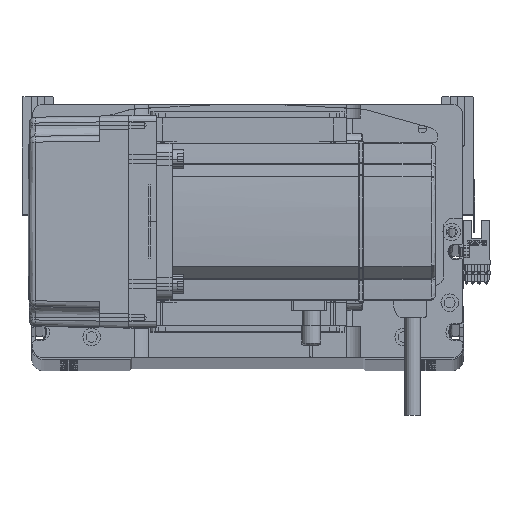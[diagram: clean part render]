
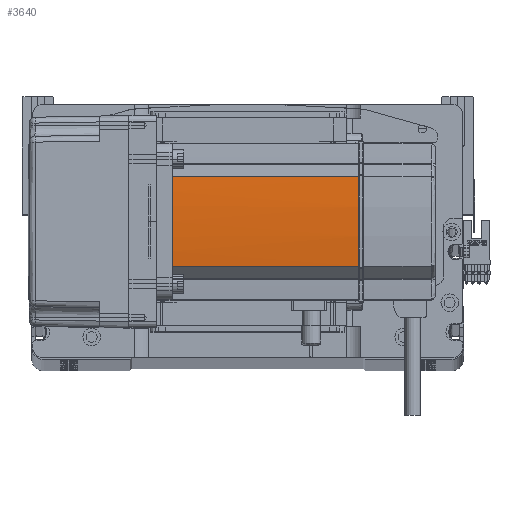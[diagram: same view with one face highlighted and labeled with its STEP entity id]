
A CAD part, top view. The second image highlights one B-rep face of the part: STEP entity #3640.
In plain terms, the highlighted cylindrical face has radius 270 mm (diameter 540 mm), a partial arc.
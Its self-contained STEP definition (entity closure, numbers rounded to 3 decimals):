
#2299 = VERTEX_POINT ( 'NONE', #8444 ) ;
#3640 = ADVANCED_FACE ( 'NONE', ( #51127 ), #11519, .T. ) ;
#3742 = CARTESIAN_POINT ( 'NONE',  ( 40., -0.042, 134. ) ) ;
#4507 = AXIS2_PLACEMENT_3D ( 'NONE', #5125, #37307, #41872 ) ;
#5125 = CARTESIAN_POINT ( 'NONE',  ( -230., 0., 39. ) ) ;
#8444 = CARTESIAN_POINT ( 'NONE',  ( 40., 0.127, 134. ) ) ;
#10355 = ORIENTED_EDGE ( 'NONE', *, *, #29696, .T. ) ;
#10881 = VECTOR ( 'NONE', #37419, 1000. ) ;
#11519 = CYLINDRICAL_SURFACE ( 'NONE', #42718, 270. ) ;
#12491 = DIRECTION ( 'NONE',  ( 0., 0., -1. ) ) ;
#12739 = CARTESIAN_POINT ( 'NONE',  ( 40., 0.127, 134. ) ) ;
#13144 = EDGE_CURVE ( 'NONE', #13616, #47516, #22749, .T. ) ;
#13616 = VERTEX_POINT ( 'NONE', #41677 ) ;
#16229 = ORIENTED_EDGE ( 'NONE', *, *, #50838, .F. ) ;
#16287 = CARTESIAN_POINT ( 'NONE',  ( 39.042, -22.724, 134. ) ) ;
#21178 = EDGE_CURVE ( 'NONE', #30528, #2299, #22454, .T. ) ;
#21742 = LINE ( 'NONE', #41401, #10881 ) ;
#22180 = DIRECTION ( 'NONE',  ( -1., 0., 0. ) ) ;
#22454 = B_SPLINE_CURVE_WITH_KNOTS ( 'NONE', 3,
 ( #43474, #3742, #53568, #12739 ),
 .UNSPECIFIED., .F., .F.,
 ( 4, 4 ),
 ( 0., 1. ),
 .UNSPECIFIED. ) ;
#22749 = LINE ( 'NONE', #30936, #45734 ) ;
#24501 = EDGE_LOOP ( 'NONE', ( #10355, #16229, #28901, #35008, #59224, #54870 ) ) ;
#26535 = CARTESIAN_POINT ( 'NONE',  ( 39.042, 22.724, 134. ) ) ;
#27839 = AXIS2_PLACEMENT_3D ( 'NONE', #54182, #45521, #40669 ) ;
#28901 = ORIENTED_EDGE ( 'NONE', *, *, #13144, .T. ) ;
#29696 = EDGE_CURVE ( 'NONE', #33536, #44658, #21742, .T. ) ;
#30528 = VERTEX_POINT ( 'NONE', #36918 ) ;
#30936 = CARTESIAN_POINT ( 'NONE',  ( 39.042, 22.724, 58. ) ) ;
#33536 = VERTEX_POINT ( 'NONE', #16287 ) ;
#34811 = CARTESIAN_POINT ( 'NONE',  ( -230., 0., 134. ) ) ;
#35008 = ORIENTED_EDGE ( 'NONE', *, *, #48100, .T. ) ;
#36918 = CARTESIAN_POINT ( 'NONE',  ( 40., -0.127, 134. ) ) ;
#37307 = DIRECTION ( 'NONE',  ( 0., 0., -1. ) ) ;
#37419 = DIRECTION ( 'NONE',  ( 0., 0., -1. ) ) ;
#38632 = CIRCLE ( 'NONE', #4507, 270. ) ;
#38737 = AXIS2_PLACEMENT_3D ( 'NONE', #34811, #12491, #53733 ) ;
#40034 = DIRECTION ( 'NONE',  ( 0., 0., -1. ) ) ;
#40669 = DIRECTION ( 'NONE',  ( -1., 0., 0. ) ) ;
#40684 = EDGE_CURVE ( 'NONE', #30528, #33536, #51767, .T. ) ;
#41401 = CARTESIAN_POINT ( 'NONE',  ( 39.042, -22.724, 58. ) ) ;
#41677 = CARTESIAN_POINT ( 'NONE',  ( 39.042, 22.724, 39. ) ) ;
#41872 = DIRECTION ( 'NONE',  ( -1., 0., 0. ) ) ;
#42718 = AXIS2_PLACEMENT_3D ( 'NONE', #44654, #40034, #22180 ) ;
#43474 = CARTESIAN_POINT ( 'NONE',  ( 40., -0.127, 134. ) ) ;
#44553 = CIRCLE ( 'NONE', #27839, 270. ) ;
#44575 = DIRECTION ( 'NONE',  ( 0., 0., 1. ) ) ;
#44654 = CARTESIAN_POINT ( 'NONE',  ( -230., 0., 58. ) ) ;
#44658 = VERTEX_POINT ( 'NONE', #58025 ) ;
#45521 = DIRECTION ( 'NONE',  ( 0., 0., -1. ) ) ;
#45734 = VECTOR ( 'NONE', #44575, 1000. ) ;
#47516 = VERTEX_POINT ( 'NONE', #26535 ) ;
#48100 = EDGE_CURVE ( 'NONE', #47516, #2299, #44553, .T. ) ;
#50838 = EDGE_CURVE ( 'NONE', #13616, #44658, #38632, .T. ) ;
#51127 = FACE_OUTER_BOUND ( 'NONE', #24501, .T. ) ;
#51767 = CIRCLE ( 'NONE', #38737, 270. ) ;
#53568 = CARTESIAN_POINT ( 'NONE',  ( 40., 0.042, 134. ) ) ;
#53733 = DIRECTION ( 'NONE',  ( -1., 0., 0. ) ) ;
#54182 = CARTESIAN_POINT ( 'NONE',  ( -230., 0., 134. ) ) ;
#54870 = ORIENTED_EDGE ( 'NONE', *, *, #40684, .T. ) ;
#58025 = CARTESIAN_POINT ( 'NONE',  ( 39.042, -22.724, 39. ) ) ;
#59224 = ORIENTED_EDGE ( 'NONE', *, *, #21178, .F. ) ;
